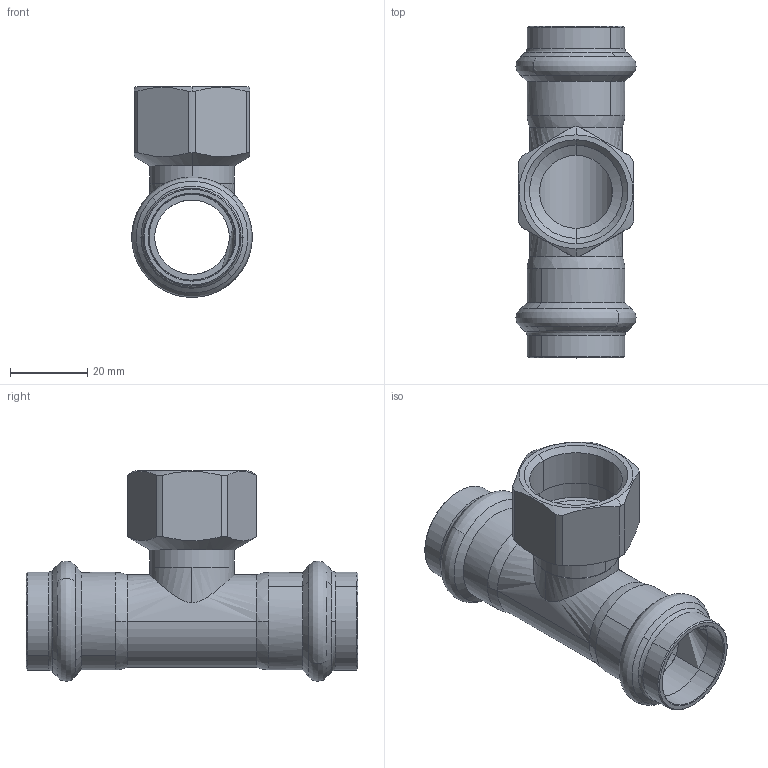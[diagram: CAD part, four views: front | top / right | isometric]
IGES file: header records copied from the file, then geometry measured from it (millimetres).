
Start section: Elysium IGES Interface
Global section: file name: C:\Users\Wallenburg\Desktop\3d modellen sudo\S-Pr VP\SP6130GV\6130GVW223422.igs; native system: CoCreate Modeling 17.00A  17-Jun-2010; preprocessor: CoCreate IGES_3D V2.2; author: Unknown; organization: Unknown; date: 20130121.144934; units: millimetre
Bounding box: 31.18 x 86.01 x 54.59 mm (x, y, z)
Volume: 18358.1 mm3; surface area: 18589.2 mm2
Topology: 1 solids, 1 shells, 117 faces, 294 edges, 182 vertices
Faces by surface type: bspline 117
